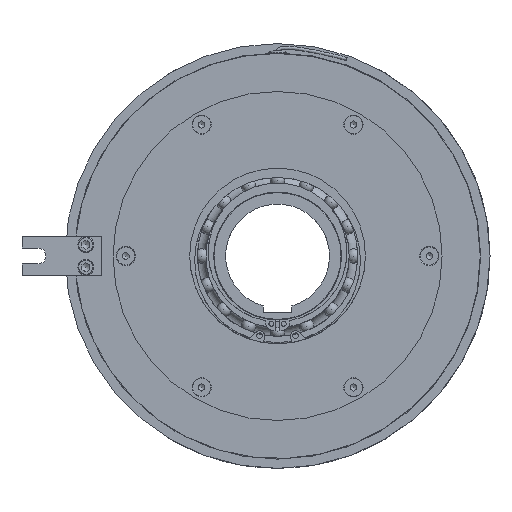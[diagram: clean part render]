
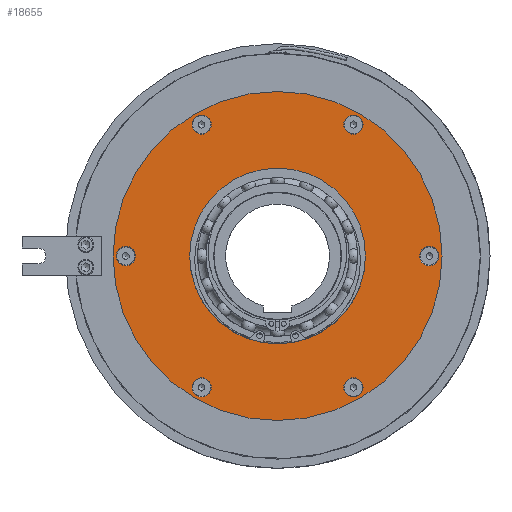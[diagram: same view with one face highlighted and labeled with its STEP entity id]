
A CAD part, left-side view. The second image highlights one B-rep face of the part: STEP entity #18655.
In plain terms, the highlighted planar face has unit normal (-1, 0, 0).
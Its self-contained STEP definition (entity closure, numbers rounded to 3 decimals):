
#552=FACE_BOUND('',#2520,.T.);
#553=FACE_BOUND('',#2521,.T.);
#554=FACE_BOUND('',#2522,.T.);
#555=FACE_BOUND('',#2523,.T.);
#556=FACE_BOUND('',#2524,.T.);
#557=FACE_BOUND('',#2525,.T.);
#558=FACE_BOUND('',#2526,.T.);
#888=PLANE('',#20134);
#1468=FACE_OUTER_BOUND('',#2519,.T.);
#2519=EDGE_LOOP('',(#13616,#13617));
#2520=EDGE_LOOP('',(#13618,#13619));
#2521=EDGE_LOOP('',(#13620,#13621));
#2522=EDGE_LOOP('',(#13622,#13623));
#2523=EDGE_LOOP('',(#13624,#13625));
#2524=EDGE_LOOP('',(#13626,#13627));
#2525=EDGE_LOOP('',(#13628,#13629));
#2526=EDGE_LOOP('',(#13630,#13631));
#4091=CIRCLE('',#20117,6.);
#4092=CIRCLE('',#20118,6.);
#4093=CIRCLE('',#20120,6.);
#4094=CIRCLE('',#20121,6.);
#4095=CIRCLE('',#20123,6.);
#4096=CIRCLE('',#20124,6.);
#4097=CIRCLE('',#20126,6.);
#4098=CIRCLE('',#20127,6.);
#4099=CIRCLE('',#20129,6.);
#4100=CIRCLE('',#20130,6.);
#4101=CIRCLE('',#20132,6.);
#4102=CIRCLE('',#20133,6.);
#4103=CIRCLE('',#20135,103.);
#4104=CIRCLE('',#20136,103.);
#4105=CIRCLE('',#20137,55.);
#4106=CIRCLE('',#20138,55.);
#7547=VERTEX_POINT('',#29869);
#7548=VERTEX_POINT('',#29870);
#7549=VERTEX_POINT('',#29875);
#7550=VERTEX_POINT('',#29876);
#7551=VERTEX_POINT('',#29881);
#7552=VERTEX_POINT('',#29882);
#7553=VERTEX_POINT('',#29887);
#7554=VERTEX_POINT('',#29888);
#7555=VERTEX_POINT('',#29893);
#7556=VERTEX_POINT('',#29894);
#7557=VERTEX_POINT('',#29899);
#7558=VERTEX_POINT('',#29900);
#7559=VERTEX_POINT('',#29905);
#7560=VERTEX_POINT('',#29906);
#7561=VERTEX_POINT('',#29909);
#7562=VERTEX_POINT('',#29910);
#9835=EDGE_CURVE('',#7547,#7548,#4091,.T.);
#9836=EDGE_CURVE('',#7548,#7547,#4092,.T.);
#9838=EDGE_CURVE('',#7549,#7550,#4093,.T.);
#9839=EDGE_CURVE('',#7550,#7549,#4094,.T.);
#9841=EDGE_CURVE('',#7551,#7552,#4095,.T.);
#9842=EDGE_CURVE('',#7552,#7551,#4096,.T.);
#9844=EDGE_CURVE('',#7553,#7554,#4097,.T.);
#9845=EDGE_CURVE('',#7554,#7553,#4098,.T.);
#9847=EDGE_CURVE('',#7555,#7556,#4099,.T.);
#9848=EDGE_CURVE('',#7556,#7555,#4100,.T.);
#9850=EDGE_CURVE('',#7557,#7558,#4101,.T.);
#9851=EDGE_CURVE('',#7558,#7557,#4102,.T.);
#9853=EDGE_CURVE('',#7559,#7560,#4103,.T.);
#9854=EDGE_CURVE('',#7560,#7559,#4104,.T.);
#9855=EDGE_CURVE('',#7561,#7562,#4105,.T.);
#9856=EDGE_CURVE('',#7562,#7561,#4106,.T.);
#13616=ORIENTED_EDGE('',*,*,#9853,.F.);
#13617=ORIENTED_EDGE('',*,*,#9854,.F.);
#13618=ORIENTED_EDGE('',*,*,#9835,.T.);
#13619=ORIENTED_EDGE('',*,*,#9836,.T.);
#13620=ORIENTED_EDGE('',*,*,#9838,.T.);
#13621=ORIENTED_EDGE('',*,*,#9839,.T.);
#13622=ORIENTED_EDGE('',*,*,#9841,.T.);
#13623=ORIENTED_EDGE('',*,*,#9842,.T.);
#13624=ORIENTED_EDGE('',*,*,#9844,.T.);
#13625=ORIENTED_EDGE('',*,*,#9845,.T.);
#13626=ORIENTED_EDGE('',*,*,#9847,.T.);
#13627=ORIENTED_EDGE('',*,*,#9848,.T.);
#13628=ORIENTED_EDGE('',*,*,#9850,.T.);
#13629=ORIENTED_EDGE('',*,*,#9851,.T.);
#13630=ORIENTED_EDGE('',*,*,#9855,.T.);
#13631=ORIENTED_EDGE('',*,*,#9856,.T.);
#18655=ADVANCED_FACE('',(#1468,#552,#553,#554,#555,#556,#557,#558),#888,
 .T.);
#20117=AXIS2_PLACEMENT_3D('',#29871,#23696,#23697);
#20118=AXIS2_PLACEMENT_3D('',#29872,#23698,#23699);
#20120=AXIS2_PLACEMENT_3D('',#29877,#23703,#23704);
#20121=AXIS2_PLACEMENT_3D('',#29878,#23705,#23706);
#20123=AXIS2_PLACEMENT_3D('',#29883,#23710,#23711);
#20124=AXIS2_PLACEMENT_3D('',#29884,#23712,#23713);
#20126=AXIS2_PLACEMENT_3D('',#29889,#23717,#23718);
#20127=AXIS2_PLACEMENT_3D('',#29890,#23719,#23720);
#20129=AXIS2_PLACEMENT_3D('',#29895,#23724,#23725);
#20130=AXIS2_PLACEMENT_3D('',#29896,#23726,#23727);
#20132=AXIS2_PLACEMENT_3D('',#29901,#23731,#23732);
#20133=AXIS2_PLACEMENT_3D('',#29902,#23733,#23734);
#20134=AXIS2_PLACEMENT_3D('',#29904,#23736,#23737);
#20135=AXIS2_PLACEMENT_3D('',#29907,#23738,#23739);
#20136=AXIS2_PLACEMENT_3D('',#29908,#23740,#23741);
#20137=AXIS2_PLACEMENT_3D('',#29911,#23742,#23743);
#20138=AXIS2_PLACEMENT_3D('',#29912,#23744,#23745);
#23696=DIRECTION('center_axis',(1.,0.,0.));
#23697=DIRECTION('ref_axis',(0.,0.,
1.));
#23698=DIRECTION('center_axis',(1.,0.,0.));
#23699=DIRECTION('ref_axis',(0.,0.,
1.));
#23703=DIRECTION('center_axis',(1.,0.,0.));
#23704=DIRECTION('ref_axis',(0.,0.,
1.));
#23705=DIRECTION('center_axis',(1.,0.,0.));
#23706=DIRECTION('ref_axis',(0.,0.,
1.));
#23710=DIRECTION('center_axis',(1.,0.,0.));
#23711=DIRECTION('ref_axis',(0.,0.,
1.));
#23712=DIRECTION('center_axis',(1.,0.,0.));
#23713=DIRECTION('ref_axis',(0.,0.,
1.));
#23717=DIRECTION('center_axis',(1.,0.,0.));
#23718=DIRECTION('ref_axis',(0.,0.,
1.));
#23719=DIRECTION('center_axis',(1.,0.,0.));
#23720=DIRECTION('ref_axis',(0.,0.,
1.));
#23724=DIRECTION('center_axis',(1.,0.,0.));
#23725=DIRECTION('ref_axis',(0.,0.,
1.));
#23726=DIRECTION('center_axis',(1.,0.,0.));
#23727=DIRECTION('ref_axis',(0.,0.,
1.));
#23731=DIRECTION('center_axis',(1.,0.,0.));
#23732=DIRECTION('ref_axis',(0.,0.,
1.));
#23733=DIRECTION('center_axis',(1.,0.,0.));
#23734=DIRECTION('ref_axis',(0.,0.,
1.));
#23736=DIRECTION('center_axis',(-1.,0.,0.));
#23737=DIRECTION('ref_axis',(0.,0.,
1.));
#23738=DIRECTION('center_axis',(1.,0.,0.));
#23739=DIRECTION('ref_axis',(0.,1.,0.));
#23740=DIRECTION('center_axis',(1.,0.,0.));
#23741=DIRECTION('ref_axis',(0.,1.,0.));
#23742=DIRECTION('center_axis',(1.,0.,0.));
#23743=DIRECTION('ref_axis',(0.,1.,0.));
#23744=DIRECTION('center_axis',(1.,0.,0.));
#23745=DIRECTION('ref_axis',(0.,1.,0.));
#29869=CARTESIAN_POINT('',(-74.,47.5,88.272));
#29870=CARTESIAN_POINT('',(-74.,47.5,76.272));
#29871=CARTESIAN_POINT('Origin',(-74.,47.5,82.272));
#29872=CARTESIAN_POINT('Origin',(-74.,47.5,82.272));
#29875=CARTESIAN_POINT('',(-74.,-47.5,88.272));
#29876=CARTESIAN_POINT('',(-74.,-47.5,76.272));
#29877=CARTESIAN_POINT('Origin',(-74.,-47.5,82.272));
#29878=CARTESIAN_POINT('Origin',(-74.,-47.5,82.272));
#29881=CARTESIAN_POINT('',(-74.,-95.,6.));
#29882=CARTESIAN_POINT('',(-74.,-95.,-6.));
#29883=CARTESIAN_POINT('Origin',(-74.,-95.,0.));
#29884=CARTESIAN_POINT('Origin',(-74.,-95.,0.));
#29887=CARTESIAN_POINT('',(-74.,-47.5,-76.272));
#29888=CARTESIAN_POINT('',(-74.,-47.5,-88.272));
#29889=CARTESIAN_POINT('Origin',(-74.,-47.5,-82.272));
#29890=CARTESIAN_POINT('Origin',(-74.,-47.5,-82.272));
#29893=CARTESIAN_POINT('',(-74.,47.5,-76.272));
#29894=CARTESIAN_POINT('',(-74.,47.5,-88.272));
#29895=CARTESIAN_POINT('Origin',(-74.,47.5,-82.272));
#29896=CARTESIAN_POINT('Origin',(-74.,47.5,-82.272));
#29899=CARTESIAN_POINT('',(-74.,95.,6.));
#29900=CARTESIAN_POINT('',(-74.,95.,-6.));
#29901=CARTESIAN_POINT('Origin',(-74.,95.,0.));
#29902=CARTESIAN_POINT('Origin',(-74.,95.,0.));
#29904=CARTESIAN_POINT('Origin',(-74.,79.,0.));
#29905=CARTESIAN_POINT('',(-74.,103.,0.));
#29906=CARTESIAN_POINT('',(-74.,-103.,0.));
#29907=CARTESIAN_POINT('Origin',(-74.,0.,0.));
#29908=CARTESIAN_POINT('Origin',(-74.,0.,0.));
#29909=CARTESIAN_POINT('',(-74.,55.,0.));
#29910=CARTESIAN_POINT('',(-74.,-55.,0.));
#29911=CARTESIAN_POINT('Origin',(-74.,0.,0.));
#29912=CARTESIAN_POINT('Origin',(-74.,0.,0.));
